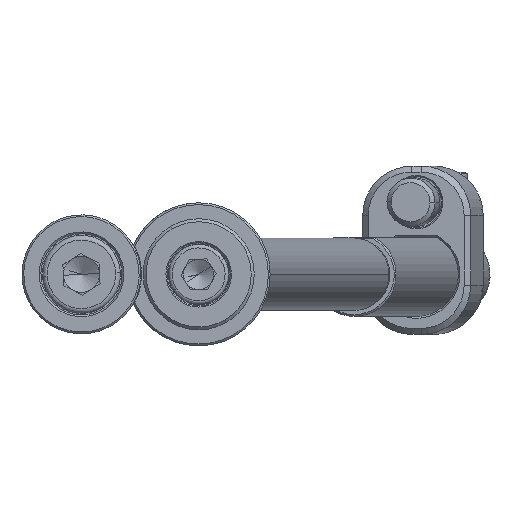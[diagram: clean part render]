
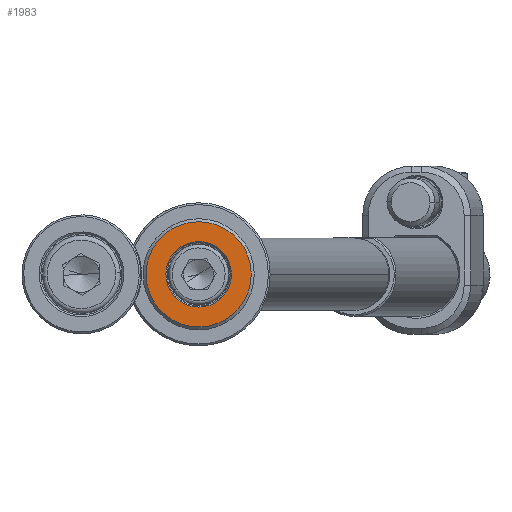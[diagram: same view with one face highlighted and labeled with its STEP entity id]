
A CAD part, front view. The second image highlights one B-rep face of the part: STEP entity #1983.
In plain terms, the highlighted planar face has unit normal (0, -1, 0).
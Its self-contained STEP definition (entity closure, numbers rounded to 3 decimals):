
#268 = DIRECTION ( 'NONE',  ( 0., 1., 0. ) ) ;
#651 = VERTEX_POINT ( 'NONE', #10786 ) ;
#959 = DIRECTION ( 'NONE',  ( 0., -1., 0. ) ) ;
#1376 = CARTESIAN_POINT ( 'NONE',  ( 0., -4., 0. ) ) ;
#1788 = DIRECTION ( 'NONE',  ( -0.505, 0., 0.863 ) ) ;
#1983 = ADVANCED_FACE ( 'NONE', ( #4021, #2786 ), #9508, .F. ) ;
#2786 = FACE_OUTER_BOUND ( 'NONE', #10525, .T. ) ;
#2953 = CARTESIAN_POINT ( 'NONE',  ( 0., -4., 0. ) ) ;
#3111 = CIRCLE ( 'NONE', #9331, 8.75 ) ;
#3173 = DIRECTION ( 'NONE',  ( 0., -1., 0. ) ) ;
#3212 = EDGE_CURVE ( 'NONE', #7577, #6616, #8946, .T. ) ;
#3638 = AXIS2_PLACEMENT_3D ( 'NONE', #1376, #268, #12447 ) ;
#3942 = CARTESIAN_POINT ( 'NONE',  ( 0., -4., 0. ) ) ;
#3963 = EDGE_CURVE ( 'NONE', #6616, #7577, #5484, .T. ) ;
#4021 = FACE_BOUND ( 'NONE', #7832, .T. ) ;
#4432 = ORIENTED_EDGE ( 'NONE', *, *, #3963, .T. ) ;
#5019 = AXIS2_PLACEMENT_3D ( 'NONE', #10753, #13808, #5248 ) ;
#5244 = EDGE_CURVE ( 'NONE', #651, #7591, #3111, .T. ) ;
#5248 = DIRECTION ( 'NONE',  ( -0.505, 0., 0.863 ) ) ;
#5366 = DIRECTION ( 'NONE',  ( -0.505, 0., 0.863 ) ) ;
#5484 = CIRCLE ( 'NONE', #11472, 5.45 ) ;
#6601 = CIRCLE ( 'NONE', #8202, 8.75 ) ;
#6616 = VERTEX_POINT ( 'NONE', #13187 ) ;
#7237 = EDGE_CURVE ( 'NONE', #7591, #651, #6601, .T. ) ;
#7535 = CARTESIAN_POINT ( 'NONE',  ( 0., -4., 0. ) ) ;
#7577 = VERTEX_POINT ( 'NONE', #13940 ) ;
#7591 = VERTEX_POINT ( 'NONE', #12838 ) ;
#7640 = ORIENTED_EDGE ( 'NONE', *, *, #5244, .T. ) ;
#7666 = ORIENTED_EDGE ( 'NONE', *, *, #3212, .T. ) ;
#7832 = EDGE_LOOP ( 'NONE', ( #7666, #4432 ) ) ;
#8202 = AXIS2_PLACEMENT_3D ( 'NONE', #7535, #959, #5366 ) ;
#8324 = DIRECTION ( 'NONE',  ( 0., 1., 0. ) ) ;
#8946 = CIRCLE ( 'NONE', #3638, 5.45 ) ;
#9331 = AXIS2_PLACEMENT_3D ( 'NONE', #2953, #3173, #1788 ) ;
#9477 = ORIENTED_EDGE ( 'NONE', *, *, #7237, .T. ) ;
#9508 = PLANE ( 'NONE',  #5019 ) ;
#10525 = EDGE_LOOP ( 'NONE', ( #9477, #7640 ) ) ;
#10753 = CARTESIAN_POINT ( 'NONE',  ( -4.531, -4., -2.652 ) ) ;
#10786 = CARTESIAN_POINT ( 'NONE',  ( 4.42, -4., -7.552 ) ) ;
#11472 = AXIS2_PLACEMENT_3D ( 'NONE', #3942, #8324, #12748 ) ;
#12447 = DIRECTION ( 'NONE',  ( -0.505, 0., 0.863 ) ) ;
#12748 = DIRECTION ( 'NONE',  ( -0.505, 0., 0.863 ) ) ;
#12838 = CARTESIAN_POINT ( 'NONE',  ( -4.42, -4., 7.552 ) ) ;
#13187 = CARTESIAN_POINT ( 'NONE',  ( -2.753, -4., 4.704 ) ) ;
#13808 = DIRECTION ( 'NONE',  ( 0., 1., 0. ) ) ;
#13940 = CARTESIAN_POINT ( 'NONE',  ( 2.753, -4., -4.704 ) ) ;
